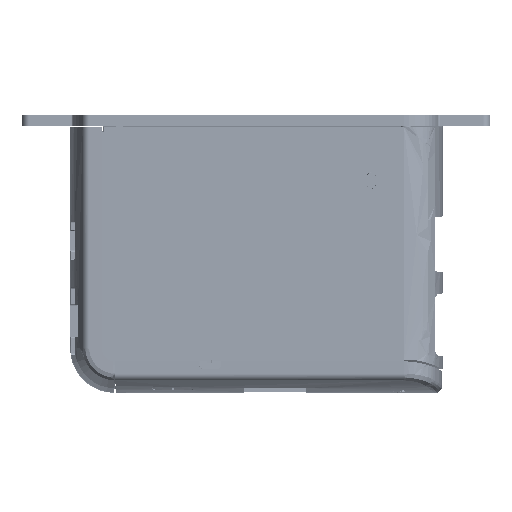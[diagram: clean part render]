
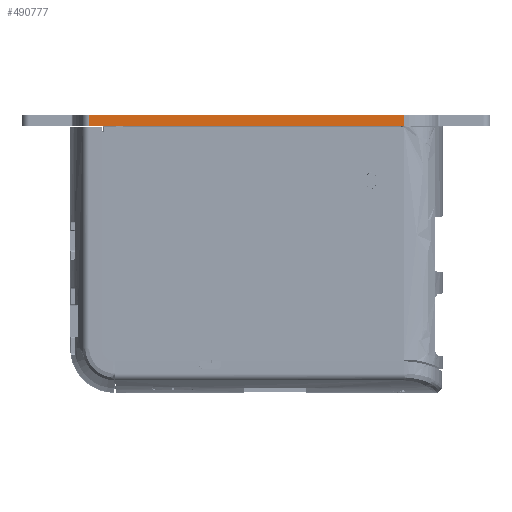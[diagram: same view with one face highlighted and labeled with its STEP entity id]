
A CAD part, front view. The second image highlights one B-rep face of the part: STEP entity #490777.
In plain terms, the highlighted planar face has unit normal (0, -1, 0).
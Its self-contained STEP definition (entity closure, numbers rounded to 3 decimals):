
#377264 = CARTESIAN_POINT ( 'NONE',  ( 43.626, -16.3, 34.28 ) ) ;
#377335 = VECTOR ( 'NONE', #377478, 1000. ) ;
#377336 = CARTESIAN_POINT ( 'NONE',  ( -40.331, -16.3, 34.28 ) ) ;
#377338 = LINE ( 'NONE', #377336, #377335 ) ;
#377476 = CARTESIAN_POINT ( 'NONE',  ( -40.331, -16.3, 34.28 ) ) ;
#377478 = DIRECTION ( 'NONE',  ( 1., 0., 0. ) ) ;
#410455 = CARTESIAN_POINT ( 'NONE',  ( -40.331, -16.3, 37.28 ) ) ;
#410520 = CARTESIAN_POINT ( 'NONE',  ( 43.626, -16.3, 37.28 ) ) ;
#410534 = DIRECTION ( 'NONE',  ( 1., 0., 0. ) ) ;
#410535 = VECTOR ( 'NONE', #410534, 1000. ) ;
#410539 = CARTESIAN_POINT ( 'NONE',  ( -40.331, -16.3, 37.28 ) ) ;
#410540 = LINE ( 'NONE', #410539, #410535 ) ;
#416432 = DIRECTION ( 'NONE',  ( 0., 0., 1. ) ) ;
#416433 = VECTOR ( 'NONE', #416432, 1000. ) ;
#416436 = CARTESIAN_POINT ( 'NONE',  ( 43.626, -16.3, 34.28 ) ) ;
#416438 = LINE ( 'NONE', #416436, #416433 ) ;
#416926 = FACE_OUTER_BOUND ( 'NONE', #490784, .T. ) ;
#417046 = DIRECTION ( 'NONE',  ( 0., 0., -1. ) ) ;
#417050 = DIRECTION ( 'NONE',  ( 0., -1., 0. ) ) ;
#417052 = CARTESIAN_POINT ( 'NONE',  ( -40.331, -16.3, 34.28 ) ) ;
#417055 = AXIS2_PLACEMENT_3D ( 'NONE', #417052, #417050, #417046 ) ;
#417066 = PLANE ( 'NONE',  #417055 ) ;
#417181 = DIRECTION ( 'NONE',  ( 0., 0., 1. ) ) ;
#417182 = VECTOR ( 'NONE', #417181, 1000. ) ;
#417184 = CARTESIAN_POINT ( 'NONE',  ( -40.331, -16.3, 34.28 ) ) ;
#417186 = LINE ( 'NONE', #417184, #417182 ) ;
#476975 = VERTEX_POINT ( 'NONE', #377264 ) ;
#477009 = EDGE_CURVE ( 'NONE', #477013, #476975, #377338, .T. ) ;
#477013 = VERTEX_POINT ( 'NONE', #377476 ) ;
#488800 = VERTEX_POINT ( 'NONE', #410455 ) ;
#488828 = EDGE_CURVE ( 'NONE', #488800, #488846, #410540, .T. ) ;
#488846 = VERTEX_POINT ( 'NONE', #410520 ) ;
#490664 = EDGE_CURVE ( 'NONE', #476975, #488846, #416438, .T. ) ;
#490777 = ADVANCED_FACE ( 'NONE', ( #416926 ), #417066, .T. ) ;
#490784 = EDGE_LOOP ( 'NONE', ( #490824, #490843, #490870, #490898 ) ) ;
#490824 = ORIENTED_EDGE ( 'NONE', *, *, #488828, .F. ) ;
#490843 = ORIENTED_EDGE ( 'NONE', *, *, #490859, .F. ) ;
#490859 = EDGE_CURVE ( 'NONE', #477013, #488800, #417186, .T. ) ;
#490870 = ORIENTED_EDGE ( 'NONE', *, *, #477009, .T. ) ;
#490898 = ORIENTED_EDGE ( 'NONE', *, *, #490664, .T. ) ;
